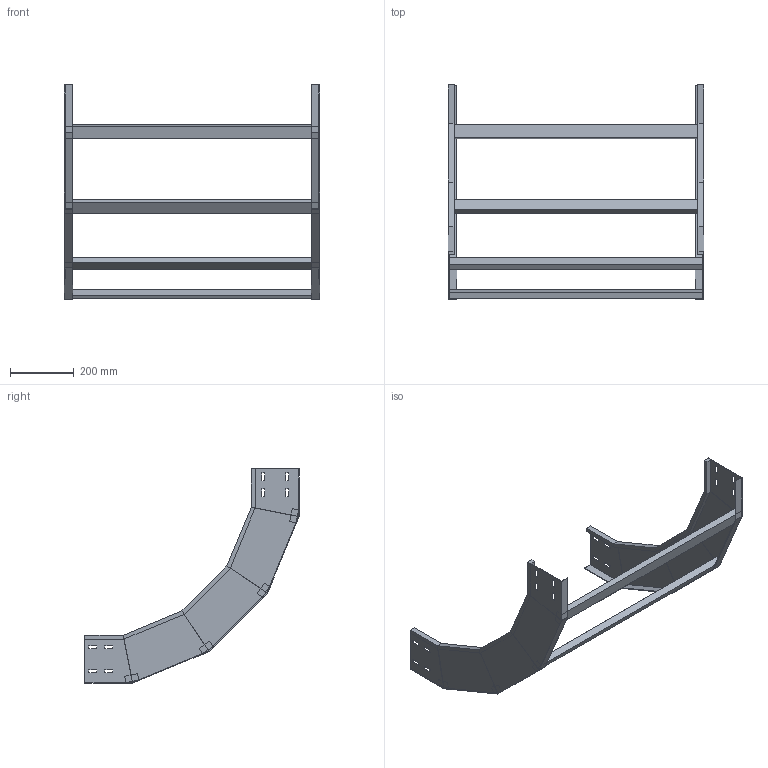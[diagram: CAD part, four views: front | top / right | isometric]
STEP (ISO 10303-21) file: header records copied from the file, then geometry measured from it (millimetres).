
FILE_DESCRIPTION (( 'STEP AP214' ), '1' );
FILE_NAME ('30J5F800.step', '2025-02-21T16:27:38', ( '' ), ( '' ), 'SwSTEP 2.0', 'SolidWorks 2023', '' );
FILE_SCHEMA (( 'AUTOMOTIVE_DESIGN' ));
Length unit declared in the file: millimetre
Products named in the file (3): LONGH.SALITA_90°_H150_R500; 30J5F800; TRAVERSINO_800
Assembly tree (6 placements, depth 2):
  30J5F800
    LONGH.SALITA_90°_H150_R500  x2
    TRAVERSINO_800  x4
Bounding box: 800 x 671.54 x 671.54 mm (x, y, z)
Volume: 3579548 mm3; surface area: 1132944.2 mm2
Topology: 6 solids, 6 shells, 172 faces, 416 edges, 256 vertices
Faces by surface type: plane 172
Entity records: 2416 total; most frequent: CARTESIAN_POINT 405, ORIENTED_EDGE 392, DIRECTION 374, LINE 196, EDGE_CURVE 196, VECTOR 196, VERTEX_POINT 120, EDGE_LOOP 96
